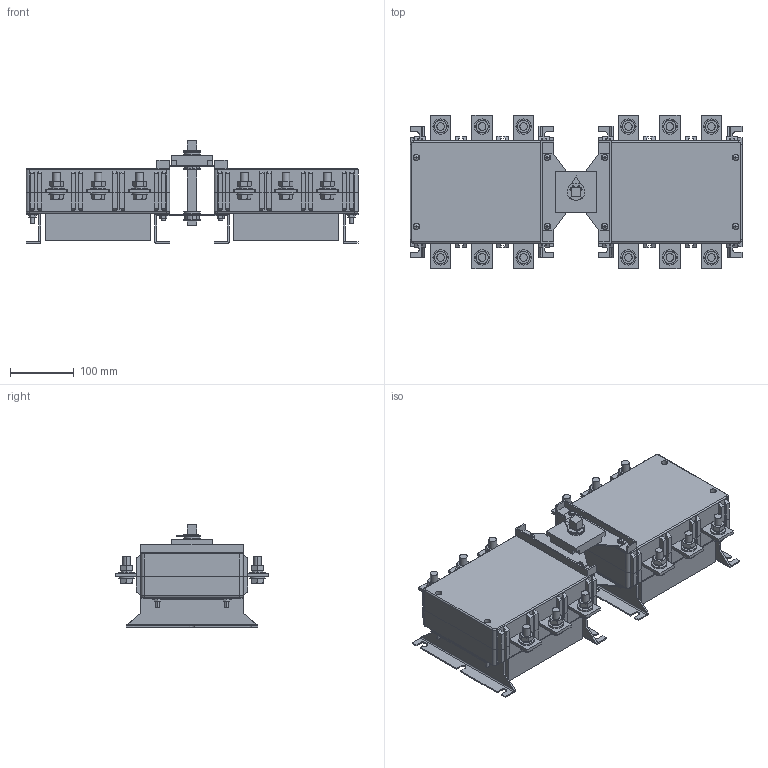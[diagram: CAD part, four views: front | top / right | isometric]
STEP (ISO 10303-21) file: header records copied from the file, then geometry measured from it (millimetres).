
FILE_DESCRIPTION((''),'2;1');
FILE_NAME('315-3S_ASM','2021-05-07T',('wangpeng'),(''),'PRO/ENGINEER BY PARAMETRIC TECHNOLOGY CORPORATION, 2009460','PRO/ENGINEER BY PARAMETRIC TECHNOLOGY CORPORATION, 2009460','');
FILE_SCHEMA(('AUTOMOTIVE_DESIGN { 1 0 10303 214 1 1 1 1 }'));
Length unit declared in the file: millimetre
Products named in the file (21): SB-315-3S; ZB-315-3S; CT-315-3S; XB-315-3S; YB-315-3S; ZCB-315-3S; DB-315-3S; PDQ12; LSM12; TDQ12; LMM12; PDQ6; 00LSM6; 0LSM6; LMM6; ZSJNH40; FKSNH40; ZSJTNH40; ZZ-315-3S; DQM8; 315-3S_ASM
Assembly tree (112 placements, depth 2):
  315-3S_ASM
    SB-315-3S  x2
    ZB-315-3S  x2
    CT-315-3S  x6
    XB-315-3S  x2
    YB-315-3S  x2
    ZCB-315-3S  x2
    DB-315-3S  x4
    PDQ12  x24
    LSM12  x12
    TDQ12  x12
    LMM12  x12
    PDQ6  x8
    00LSM6  x4
    0LSM6  x4
    LMM6  x8
    ZSJNH40
    FKSNH40  x3
    ZSJTNH40
    ZZ-315-3S
    DQM8  x2
Bounding box: 520 x 240 x 160.5 mm (x, y, z)
Volume: 7809134.5 mm3; surface area: 1023117.9 mm2
Topology: 112 solids, 112 shells, 2228 faces, 5493 edges, 3540 vertices
Faces by surface type: plane 1289, cylinder 579, cone 328, torus 16, sphere 16
Entity records: 22063 total; most frequent: CARTESIAN_POINT 4055, DIRECTION 3451, ORIENTED_EDGE 3264, EDGE_CURVE 1632, VECTOR 1173, LINE 1173, AXIS2_PLACEMENT_3D 1139, VERTEX_POINT 1071
